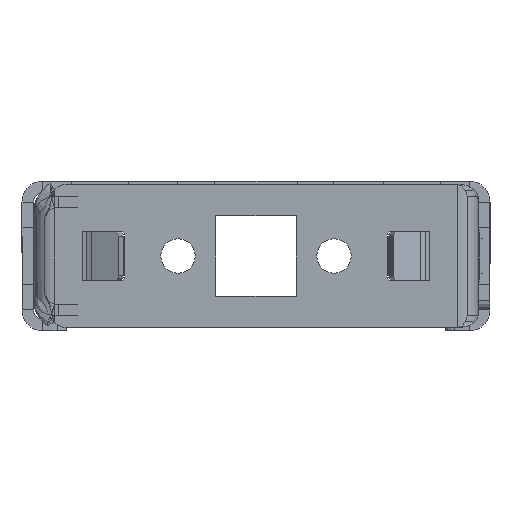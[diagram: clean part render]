
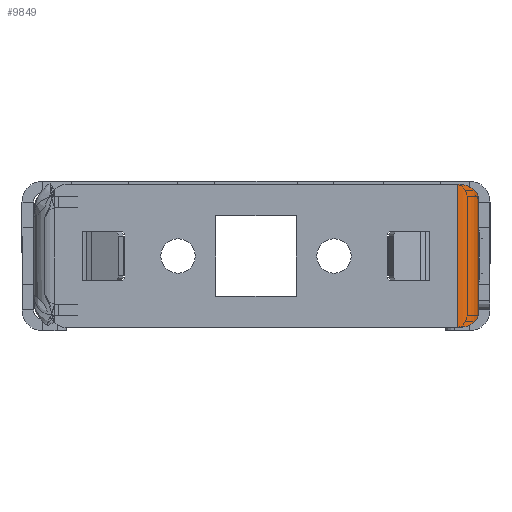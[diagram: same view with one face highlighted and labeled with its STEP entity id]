
A CAD part, left-side view. The second image highlights one B-rep face of the part: STEP entity #9849.
In plain terms, the highlighted cylindrical face has radius 3.353 mm (diameter 6.706 mm), a partial arc.
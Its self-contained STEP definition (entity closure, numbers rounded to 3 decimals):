
#361 = ORIENTED_EDGE ( 'NONE', *, *, #62504, .F. ) ;
#492 = EDGE_CURVE ( 'NONE', #61881, #59070, #73219, .T. ) ;
#963 = CARTESIAN_POINT ( 'NONE',  ( -10.525, -34.949, -1.274 ) ) ;
#3607 = CARTESIAN_POINT ( 'NONE',  ( -9.605, -35.671, -3.353 ) ) ;
#3884 = CARTESIAN_POINT ( 'NONE',  ( -10.41, -35.054, -1.407 ) ) ;
#4097 = CARTESIAN_POINT ( 'NONE',  ( 9.821, -35.585, -2.574 ) ) ;
#5906 = VERTEX_POINT ( 'NONE', #62591 ) ;
#7549 = EDGE_CURVE ( 'NONE', #18995, #59070, #12549, .T. ) ;
#7577 = CARTESIAN_POINT ( 'NONE',  ( -11.082, -34.288, -0.637 ) ) ;
#8860 = CARTESIAN_POINT ( 'NONE',  ( 11.469, -32.853, -0.032 ) ) ;
#9849 = ADVANCED_FACE ( 'NONE', ( #12141 ), #27608, .T. ) ;
#10044 = B_SPLINE_CURVE_WITH_KNOTS ( 'NONE', 3,
 ( #23652, #62971, #76205, #36888, #82826, #43463, #4097, #50079, #10679, #56681 ),
 .UNSPECIFIED., .F., .F.,
 ( 4, 2, 2, 2, 4 ),
 ( 0., 0.001, 0.001, 0.002, 0.002 ),
 .UNSPECIFIED. ) ;
#10163 = CARTESIAN_POINT ( 'NONE',  ( -9.647, -35.671, -3.152 ) ) ;
#10374 = VERTEX_POINT ( 'NONE', #60119 ) ;
#10679 = CARTESIAN_POINT ( 'NONE',  ( 9.652, -35.671, -3.153 ) ) ;
#11231 = CARTESIAN_POINT ( 'NONE',  ( 10.525, -34.949, -1.274 ) ) ;
#12141 = FACE_OUTER_BOUND ( 'NONE', #43121, .T. ) ;
#12549 = LINE ( 'NONE', #25367, #78338 ) ;
#14184 = CARTESIAN_POINT ( 'NONE',  ( -11.228, -33.974, -0.434 ) ) ;
#14312 = VERTEX_POINT ( 'NONE', #11231 ) ;
#15477 = CARTESIAN_POINT ( 'NONE',  ( 11.375, -33.367, -0.165 ) ) ;
#16399 = B_SPLINE_CURVE_WITH_KNOTS ( 'NONE', 3,
 ( #3607, #10163, #69360, #30073, #75983, #36680, #82602, #43245, #3884, #49861 ),
 .UNSPECIFIED., .F., .F.,
 ( 4, 2, 2, 2, 4 ),
 ( 0., 0.001, 0.001, 0.002, 0.002 ),
 .UNSPECIFIED. ) ;
#18717 = DIRECTION ( 'NONE',  ( -1., 0., 0. ) ) ;
#18995 = VERTEX_POINT ( 'NONE', #19917 ) ;
#19917 = CARTESIAN_POINT ( 'NONE',  ( 11.5, -32.318, 0. ) ) ;
#20513 = CARTESIAN_POINT ( 'NONE',  ( -10.835, -34.66, -0.941 ) ) ;
#20803 = CARTESIAN_POINT ( 'NONE',  ( -11.324, -33.622, -0.261 ) ) ;
#22108 = CARTESIAN_POINT ( 'NONE',  ( 11.275, -33.728, -0.308 ) ) ;
#23449 = CARTESIAN_POINT ( 'NONE',  ( -10.525, -34.949, -1.274 ) ) ;
#23652 = CARTESIAN_POINT ( 'NONE',  ( 10.525, -34.949, -1.274 ) ) ;
#25367 = CARTESIAN_POINT ( 'NONE',  ( 11.5, -32.318, 0. ) ) ;
#27148 = CARTESIAN_POINT ( 'NONE',  ( -10.688, -34.815, -1.104 ) ) ;
#27361 = AXIS2_PLACEMENT_3D ( 'NONE', #74575, #48170, #28371 ) ;
#27443 = CARTESIAN_POINT ( 'NONE',  ( -11.393, -33.246, -0.128 ) ) ;
#27608 = CYLINDRICAL_SURFACE ( 'NONE', #27361, 3.353 ) ;
#28371 = DIRECTION ( 'NONE',  ( 0., 0., 1. ) ) ;
#28737 = CARTESIAN_POINT ( 'NONE',  ( 11.048, -34.278, -0.622 ) ) ;
#30073 = CARTESIAN_POINT ( 'NONE',  ( -9.812, -35.585, -2.574 ) ) ;
#32554 = VECTOR ( 'NONE', #36383, 1000. ) ;
#34052 = CARTESIAN_POINT ( 'NONE',  ( -11.476, -32.589, 0. ) ) ;
#35361 = CARTESIAN_POINT ( 'NONE',  ( 10.675, -34.81, -1.098 ) ) ;
#36383 = DIRECTION ( 'NONE',  ( -1., 0., 0. ) ) ;
#36680 = CARTESIAN_POINT ( 'NONE',  ( -10.031, -35.406, -2.033 ) ) ;
#36888 = CARTESIAN_POINT ( 'NONE',  ( 10.117, -35.327, -1.862 ) ) ;
#41650 = CARTESIAN_POINT ( 'NONE',  ( 11.5, -32.318, 0. ) ) ;
#42963 = CARTESIAN_POINT ( 'NONE',  ( 11.5, -35.671, -3.353 ) ) ;
#43121 = EDGE_LOOP ( 'NONE', ( #50831, #83020, #361, #44659, #71954, #61616 ) ) ;
#43245 = CARTESIAN_POINT ( 'NONE',  ( -10.305, -35.153, -1.553 ) ) ;
#43463 = CARTESIAN_POINT ( 'NONE',  ( 9.886, -35.535, -2.389 ) ) ;
#44659 = ORIENTED_EDGE ( 'NONE', *, *, #54651, .F. ) ;
#46965 = CARTESIAN_POINT ( 'NONE',  ( -11.024, -34.386, -0.711 ) ) ;
#48170 = DIRECTION ( 'NONE',  ( -1., 0., 0. ) ) ;
#49861 = CARTESIAN_POINT ( 'NONE',  ( -10.525, -34.949, -1.274 ) ) ;
#50079 = CARTESIAN_POINT ( 'NONE',  ( 9.704, -35.653, -2.955 ) ) ;
#50831 = ORIENTED_EDGE ( 'NONE', *, *, #81077, .F. ) ;
#52552 = CARTESIAN_POINT ( 'NONE',  ( -11.5, -32.318, 0. ) ) ;
#53571 = CARTESIAN_POINT ( 'NONE',  ( -11.184, -34.082, -0.499 ) ) ;
#54651 = EDGE_CURVE ( 'NONE', #18995, #14312, #54860, .T. ) ;
#54854 = CARTESIAN_POINT ( 'NONE',  ( 11.403, -33.239, -0.126 ) ) ;
#54860 = B_SPLINE_CURVE_WITH_KNOTS ( 'NONE', 3,
 ( #41650, #80995, #8860, #54854, #15477, #61451, #22108, #68008, #28737, #74660, #35361, #81272 ),
 .UNSPECIFIED., .F., .F.,
 ( 4, 2, 2, 2, 2, 4 ),
 ( 0., 0.001, 0.001, 0.002, 0.002, 0.003 ),
 .UNSPECIFIED. ) ;
#56681 = CARTESIAN_POINT ( 'NONE',  ( 9.605, -35.671, -3.353 ) ) ;
#59070 = VERTEX_POINT ( 'NONE', #52552 ) ;
#59949 = EDGE_CURVE ( 'NONE', #5906, #10374, #84913, .T. ) ;
#60119 = CARTESIAN_POINT ( 'NONE',  ( -9.605, -35.671, -3.353 ) ) ;
#60147 = CARTESIAN_POINT ( 'NONE',  ( -11.297, -33.743, -0.315 ) ) ;
#61451 = CARTESIAN_POINT ( 'NONE',  ( 11.311, -33.611, -0.256 ) ) ;
#61616 = ORIENTED_EDGE ( 'NONE', *, *, #492, .F. ) ;
#61881 = VERTEX_POINT ( 'NONE', #23449 ) ;
#62504 = EDGE_CURVE ( 'NONE', #14312, #5906, #10044, .T. ) ;
#62591 = CARTESIAN_POINT ( 'NONE',  ( 9.605, -35.671, -3.353 ) ) ;
#62971 = CARTESIAN_POINT ( 'NONE',  ( 10.406, -35.053, -1.405 ) ) ;
#66718 = CARTESIAN_POINT ( 'NONE',  ( -11.373, -33.373, -0.167 ) ) ;
#68008 = CARTESIAN_POINT ( 'NONE',  ( 11.151, -34.068, -0.482 ) ) ;
#69360 = CARTESIAN_POINT ( 'NONE',  ( -9.696, -35.653, -2.956 ) ) ;
#71954 = ORIENTED_EDGE ( 'NONE', *, *, #7549, .T. ) ;
#73219 = B_SPLINE_CURVE_WITH_KNOTS ( 'NONE', 3,
 ( #963, #27148, #20513, #46965, #7577, #53571, #14184, #60147, #20803, #66718, #27443, #73363, #34052, #79973 ),
 .UNSPECIFIED., .F., .F.,
 ( 4, 2, 2, 2, 2, 2, 4 ),
 ( 0., 0.001, 0.001, 0.002, 0.002, 0.002, 0.003 ),
 .UNSPECIFIED. ) ;
#73363 = CARTESIAN_POINT ( 'NONE',  ( -11.448, -32.858, -0.033 ) ) ;
#74575 = CARTESIAN_POINT ( 'NONE',  ( 23.389, -32.318, -3.353 ) ) ;
#74660 = CARTESIAN_POINT ( 'NONE',  ( 10.811, -34.647, -0.929 ) ) ;
#75983 = CARTESIAN_POINT ( 'NONE',  ( -9.879, -35.534, -2.386 ) ) ;
#76205 = CARTESIAN_POINT ( 'NONE',  ( 10.303, -35.151, -1.549 ) ) ;
#78338 = VECTOR ( 'NONE', #18717, 1000. ) ;
#79973 = CARTESIAN_POINT ( 'NONE',  ( -11.5, -32.318, 0. ) ) ;
#80995 = CARTESIAN_POINT ( 'NONE',  ( 11.494, -32.589, 0. ) ) ;
#81077 = EDGE_CURVE ( 'NONE', #10374, #61881, #16399, .T. ) ;
#81272 = CARTESIAN_POINT ( 'NONE',  ( 10.525, -34.949, -1.274 ) ) ;
#82602 = CARTESIAN_POINT ( 'NONE',  ( -10.116, -35.329, -1.866 ) ) ;
#82826 = CARTESIAN_POINT ( 'NONE',  ( 10.034, -35.406, -2.032 ) ) ;
#83020 = ORIENTED_EDGE ( 'NONE', *, *, #59949, .F. ) ;
#84913 = LINE ( 'NONE', #42963, #32554 ) ;
